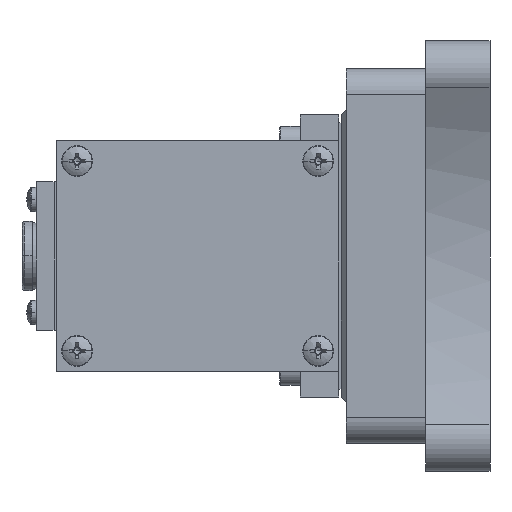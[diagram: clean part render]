
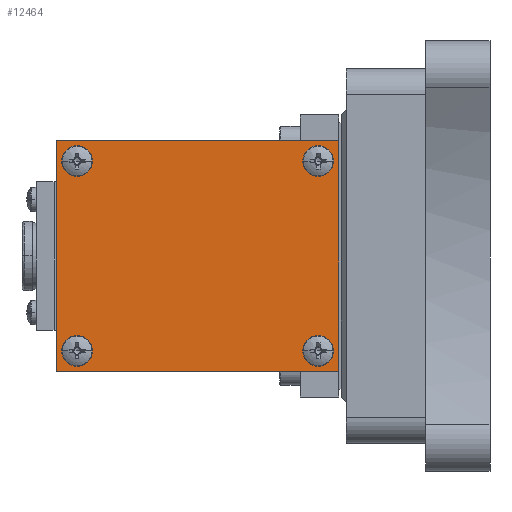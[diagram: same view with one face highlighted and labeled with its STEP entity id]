
A CAD part, left-side view. The second image highlights one B-rep face of the part: STEP entity #12464.
In plain terms, the highlighted planar face has unit normal (-1, 0, 0).
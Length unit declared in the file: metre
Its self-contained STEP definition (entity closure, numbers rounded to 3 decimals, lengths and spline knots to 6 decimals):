
#23 = CARTESIAN_POINT ( 'NONE',  ( -0.0978, 0.056, 0.045 ) ) ;
#40 = ORIENTED_EDGE ( 'NONE', *, *, #2673, .F. ) ;
#169 = LINE ( 'NONE', #9552, #6711 ) ;
#210 = LINE ( 'NONE', #1255, #7580 ) ;
#265 = VERTEX_POINT ( 'NONE', #16387 ) ;
#368 = ORIENTED_EDGE ( 'NONE', *, *, #3159, .F. ) ;
#530 = FACE_BOUND ( 'NONE', #15715, .T. ) ;
#540 = AXIS2_PLACEMENT_3D ( 'NONE', #11378, #11414, #11452 ) ;
#946 = FACE_BOUND ( 'NONE', #2701, .T. ) ;
#1002 = AXIS2_PLACEMENT_3D ( 'NONE', #13626, #5866, #14934 ) ;
#1209 = VECTOR ( 'NONE', #15347, 1. ) ;
#1255 = CARTESIAN_POINT ( 'NONE',  ( -0.0978, 0.056, -0.045 ) ) ;
#1365 = DIRECTION ( 'NONE',  ( 0., 1., 0. ) ) ;
#1627 = CARTESIAN_POINT ( 'NONE',  ( -0.0978, 0.111, -0.045 ) ) ;
#1893 = PLANE ( 'NONE',  #1002 ) ;
#1950 = CIRCLE ( 'NONE', #4026, 0.003 ) ;
#2013 = ORIENTED_EDGE ( 'NONE', *, *, #7495, .F. ) ;
#2382 = EDGE_LOOP ( 'NONE', ( #12409, #2792, #6791, #7662 ) ) ;
#2673 = EDGE_CURVE ( 'NONE', #13846, #265, #1950, .T. ) ;
#2701 = EDGE_LOOP ( 'NONE', ( #8871, #2013 ) ) ;
#2792 = ORIENTED_EDGE ( 'NONE', *, *, #9563, .F. ) ;
#3046 = VECTOR ( 'NONE', #16840, 1. ) ;
#3159 = EDGE_CURVE ( 'NONE', #265, #13846, #14608, .T. ) ;
#3313 = VERTEX_POINT ( 'NONE', #1627 ) ;
#3512 = CIRCLE ( 'NONE', #14856, 0.003 ) ;
#3604 = FACE_OUTER_BOUND ( 'NONE', #2382, .T. ) ;
#3652 = AXIS2_PLACEMENT_3D ( 'NONE', #7298, #7321, #7356 ) ;
#3685 = CARTESIAN_POINT ( 'NONE',  ( -0.0978, 0.103, -0.034 ) ) ;
#3931 = EDGE_LOOP ( 'NONE', ( #5850, #5375 ) ) ;
#4006 = FACE_BOUND ( 'NONE', #3931, .T. ) ;
#4026 = AXIS2_PLACEMENT_3D ( 'NONE', #12457, #12492, #12517 ) ;
#4103 = EDGE_CURVE ( 'NONE', #13567, #6842, #4173, .T. ) ;
#4173 = CIRCLE ( 'NONE', #14066, 0.003 ) ;
#4349 = EDGE_CURVE ( 'NONE', #7203, #8160, #12934, .T. ) ;
#4509 = CARTESIAN_POINT ( 'NONE',  ( -0.0978, 0.103, -0.037 ) ) ;
#4548 = DIRECTION ( 'NONE',  ( -1., 0., 0. ) ) ;
#4715 = DIRECTION ( 'NONE',  ( 0., 0., 1. ) ) ;
#5039 = EDGE_CURVE ( 'NONE', #8160, #7203, #5430, .T. ) ;
#5176 = ORIENTED_EDGE ( 'NONE', *, *, #4103, .F. ) ;
#5375 = ORIENTED_EDGE ( 'NONE', *, *, #5039, .F. ) ;
#5430 = CIRCLE ( 'NONE', #540, 0.003 ) ;
#5432 = CARTESIAN_POINT ( 'NONE',  ( -0.0978, 0.103, 0.037 ) ) ;
#5850 = ORIENTED_EDGE ( 'NONE', *, *, #4349, .F. ) ;
#5863 = CARTESIAN_POINT ( 'NONE',  ( -0.0978, 0.001, 0.045 ) ) ;
#5866 = DIRECTION ( 'NONE',  ( 1., 0., 0. ) ) ;
#5923 = VERTEX_POINT ( 'NONE', #5863 ) ;
#5971 = CIRCLE ( 'NONE', #7350, 0.003 ) ;
#6591 = EDGE_LOOP ( 'NONE', ( #12829, #5176 ) ) ;
#6711 = VECTOR ( 'NONE', #9289, 1. ) ;
#6726 = DIRECTION ( 'NONE',  ( 0., 0., 1. ) ) ;
#6791 = ORIENTED_EDGE ( 'NONE', *, *, #9410, .F. ) ;
#6842 = VERTEX_POINT ( 'NONE', #11729 ) ;
#7203 = VERTEX_POINT ( 'NONE', #3685 ) ;
#7298 = CARTESIAN_POINT ( 'NONE',  ( -0.0978, 0.009, 0.037 ) ) ;
#7321 = DIRECTION ( 'NONE',  ( -1., 0., 0. ) ) ;
#7350 = AXIS2_PLACEMENT_3D ( 'NONE', #5432, #14512, #6726 ) ;
#7356 = DIRECTION ( 'NONE',  ( 0., 0., 1. ) ) ;
#7368 = CIRCLE ( 'NONE', #3652, 0.003 ) ;
#7495 = EDGE_CURVE ( 'NONE', #9771, #10129, #3512, .T. ) ;
#7580 = VECTOR ( 'NONE', #1365, 1. ) ;
#7662 = ORIENTED_EDGE ( 'NONE', *, *, #8524, .F. ) ;
#7732 = CARTESIAN_POINT ( 'NONE',  ( -0.0978, 0.103, 0.034 ) ) ;
#7755 = LINE ( 'NONE', #15324, #1209 ) ;
#8160 = VERTEX_POINT ( 'NONE', #15417 ) ;
#8342 = CARTESIAN_POINT ( 'NONE',  ( -0.0978, 0.009, 0.037 ) ) ;
#8397 = DIRECTION ( 'NONE',  ( -1., 0., 0. ) ) ;
#8432 = DIRECTION ( 'NONE',  ( 0., 0., 1. ) ) ;
#8524 = EDGE_CURVE ( 'NONE', #10423, #3313, #210, .T. ) ;
#8836 = CARTESIAN_POINT ( 'NONE',  ( -0.0978, 0.001, -0.045 ) ) ;
#8865 = EDGE_CURVE ( 'NONE', #10129, #9771, #7368, .T. ) ;
#8871 = ORIENTED_EDGE ( 'NONE', *, *, #8865, .F. ) ;
#9133 = VERTEX_POINT ( 'NONE', #11321 ) ;
#9289 = DIRECTION ( 'NONE',  ( 0., 0., -1. ) ) ;
#9410 = EDGE_CURVE ( 'NONE', #3313, #9133, #7755, .T. ) ;
#9552 = CARTESIAN_POINT ( 'NONE',  ( -0.0978, 0.001, 0. ) ) ;
#9563 = EDGE_CURVE ( 'NONE', #9133, #5923, #10000, .T. ) ;
#9771 = VERTEX_POINT ( 'NONE', #14033 ) ;
#10000 = LINE ( 'NONE', #23, #3046 ) ;
#10129 = VERTEX_POINT ( 'NONE', #14021 ) ;
#10423 = VERTEX_POINT ( 'NONE', #8836 ) ;
#10461 = EDGE_CURVE ( 'NONE', #5923, #10423, #169, .T. ) ;
#10554 = FACE_BOUND ( 'NONE', #6591, .T. ) ;
#11024 = CARTESIAN_POINT ( 'NONE',  ( -0.0978, 0.009, -0.034 ) ) ;
#11321 = CARTESIAN_POINT ( 'NONE',  ( -0.0978, 0.111, 0.045 ) ) ;
#11378 = CARTESIAN_POINT ( 'NONE',  ( -0.0978, 0.103, -0.037 ) ) ;
#11414 = DIRECTION ( 'NONE',  ( -1., 0., 0. ) ) ;
#11452 = DIRECTION ( 'NONE',  ( 0., 0., 1. ) ) ;
#11729 = CARTESIAN_POINT ( 'NONE',  ( -0.0978, 0.103, 0.04 ) ) ;
#12409 = ORIENTED_EDGE ( 'NONE', *, *, #10461, .F. ) ;
#12457 = CARTESIAN_POINT ( 'NONE',  ( -0.0978, 0.009, -0.037 ) ) ;
#12464 = ADVANCED_FACE ( 'NONE', ( #4006, #10554, #530, #946, #3604 ), #1893, .F. ) ;
#12492 = DIRECTION ( 'NONE',  ( -1., 0., 0. ) ) ;
#12517 = DIRECTION ( 'NONE',  ( 0., 0., 1. ) ) ;
#12829 = ORIENTED_EDGE ( 'NONE', *, *, #13263, .F. ) ;
#12934 = CIRCLE ( 'NONE', #13733, 0.003 ) ;
#13263 = EDGE_CURVE ( 'NONE', #6842, #13567, #5971, .T. ) ;
#13567 = VERTEX_POINT ( 'NONE', #7732 ) ;
#13626 = CARTESIAN_POINT ( 'NONE',  ( -0.0978, 0.001, 0.045 ) ) ;
#13733 = AXIS2_PLACEMENT_3D ( 'NONE', #4509, #4548, #4715 ) ;
#13846 = VERTEX_POINT ( 'NONE', #11024 ) ;
#14021 = CARTESIAN_POINT ( 'NONE',  ( -0.0978, 0.009, 0.04 ) ) ;
#14033 = CARTESIAN_POINT ( 'NONE',  ( -0.0978, 0.009, 0.034 ) ) ;
#14066 = AXIS2_PLACEMENT_3D ( 'NONE', #14630, #14641, #14673 ) ;
#14161 = AXIS2_PLACEMENT_3D ( 'NONE', #15632, #16288, #15735 ) ;
#14512 = DIRECTION ( 'NONE',  ( -1., 0., 0. ) ) ;
#14608 = CIRCLE ( 'NONE', #14161, 0.003 ) ;
#14630 = CARTESIAN_POINT ( 'NONE',  ( -0.0978, 0.103, 0.037 ) ) ;
#14641 = DIRECTION ( 'NONE',  ( -1., 0., 0. ) ) ;
#14673 = DIRECTION ( 'NONE',  ( 0., 0., 1. ) ) ;
#14856 = AXIS2_PLACEMENT_3D ( 'NONE', #8342, #8397, #8432 ) ;
#14934 = DIRECTION ( 'NONE',  ( 0., 0., -1. ) ) ;
#15324 = CARTESIAN_POINT ( 'NONE',  ( -0.0978, 0.111, 0. ) ) ;
#15347 = DIRECTION ( 'NONE',  ( 0., 0., 1. ) ) ;
#15417 = CARTESIAN_POINT ( 'NONE',  ( -0.0978, 0.103, -0.04 ) ) ;
#15632 = CARTESIAN_POINT ( 'NONE',  ( -0.0978, 0.009, -0.037 ) ) ;
#15715 = EDGE_LOOP ( 'NONE', ( #40, #368 ) ) ;
#15735 = DIRECTION ( 'NONE',  ( 0., 0., 1. ) ) ;
#16288 = DIRECTION ( 'NONE',  ( -1., 0., 0. ) ) ;
#16387 = CARTESIAN_POINT ( 'NONE',  ( -0.0978, 0.009, -0.04 ) ) ;
#16840 = DIRECTION ( 'NONE',  ( 0., -1., 0. ) ) ;
